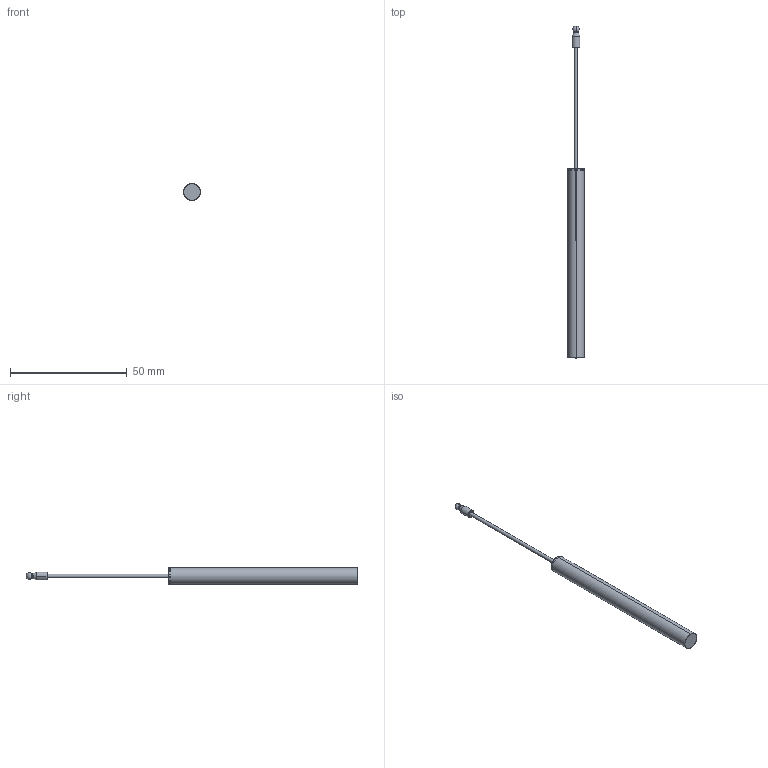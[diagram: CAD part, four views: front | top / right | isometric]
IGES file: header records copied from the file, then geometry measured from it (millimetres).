
Start section: SolidWorks IGES file using analytic representation for surfaces
Bounding box: 7.2 x 142 x 7.2 mm (x, y, z)
Surface area: 2417.4 mm2 (no closed solid volume)
Topology: 0 solids, 0 shells, 21 faces, 220 edges, 218 vertices
Faces by surface type: revolution 16, bspline 5
